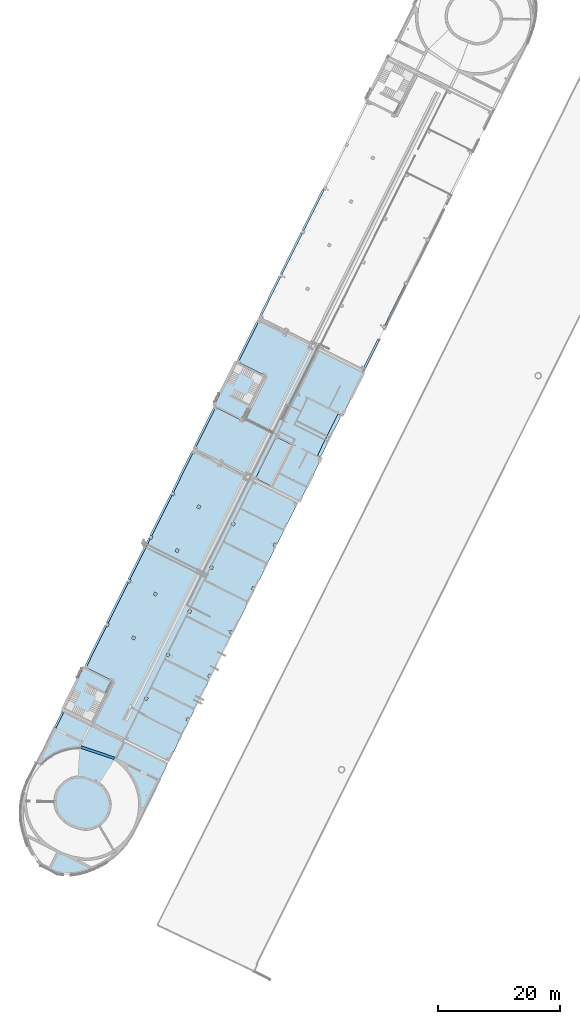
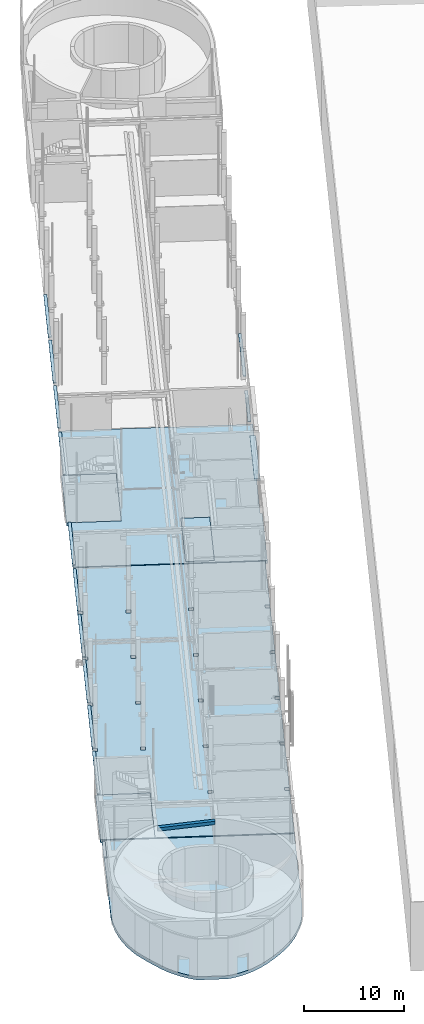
# One storey, part 2 of 91: 21 slabs, 11 openings.
"""IFC2X3 building model written with IfcOpenShell, lengths in metres."""

from ifc_helpers import new_model, entity, si_unit, converted_unit, derived_unit, direction, frame, frame_2d, origin, origin_2d_with_axis, place, context, subcontext, project, spatial, polyline, circle_curve, parameter, trimmed, segment, composite_curve, rectangle, circle, outline, extrude, material, layer, layer_set, layer_usage, element, save


model = new_model("IFC2X3")

# Units and contexts
model_context = context("Model", 3, precision=1e-05, world=origin(), true_north=direction((0.894925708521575, 0.446215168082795)))
context_of_model = context(None, 3, precision=1e-05, world=origin(), true_north=direction((0.894925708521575, 0.446215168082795)))
body_context = subcontext(model_context, "Body", "Model", "MODEL_VIEW")
ifc_project = project(units=[si_unit("LENGTHUNIT", "METRE"), si_unit("AREAUNIT", "SQUARE_METRE"), si_unit("VOLUMEUNIT", "CUBIC_METRE"), converted_unit("PLANEANGLEUNIT", "DEGREE", entity("IfcRatioMeasure", 0.0174532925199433), si_unit("PLANEANGLEUNIT", "RADIAN"), dimensions=[0, 0, 0, 0, 0, 0, 0]), si_unit("MASSUNIT", "GRAM", prefix="KILO"), si_unit("TIMEUNIT", "SECOND"), si_unit("FREQUENCYUNIT", "HERTZ"), si_unit("THERMODYNAMICTEMPERATUREUNIT", "DEGREE_CELSIUS"), derived_unit("THERMALTRANSMITTANCEUNIT", [(si_unit("MASSUNIT", "GRAM", prefix="KILO"), 1), (si_unit("THERMODYNAMICTEMPERATUREUNIT", "KELVIN"), -1), (si_unit("TIMEUNIT", "SECOND"), -3)]), derived_unit("VOLUMETRICFLOWRATEUNIT", [(si_unit("LENGTHUNIT", "METRE"), 3), (si_unit("TIMEUNIT", "SECOND"), -1)]), si_unit("ELECTRICCURRENTUNIT", "AMPERE"), si_unit("ELECTRICVOLTAGEUNIT", "VOLT"), si_unit("POWERUNIT", "WATT"), si_unit("FORCEUNIT", "NEWTON", prefix="KILO"), si_unit("ILLUMINANCEUNIT", "LUX"), si_unit("LUMINOUSFLUXUNIT", "LUMEN"), si_unit("LUMINOUSINTENSITYUNIT", "CANDELA"), si_unit("PRESSUREUNIT", "PASCAL")], contexts=[model_context, context_of_model])

# Site, building, storey
site_placement = place(None, frame((218.228324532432, 584.720189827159, 0.0), z_axis=(0.0, 0.0, 1.0), x_axis=(0.446215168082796, 0.894925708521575, 0.0)))
site = spatial("IfcSite", under=ifc_project, at=site_placement, Name="Default", CompositionType="ELEMENT")
building_placement = place(site_placement, origin())
building = spatial("IfcBuilding", under=site, at=building_placement, CompositionType="ELEMENT")
storey_placement = place(building_placement, origin())
storey = spatial("IfcBuildingStorey", under=building, at=storey_placement, Name="0 - Piano Terra", CompositionType="ELEMENT", Elevation=0.0)

# Slabs
ifc_material_1 = material(Name="Asfalto, bitume")
ifc_layer_1 = layer(ifc_material_1, 0.01)
ifc_material_2 = material(Name="Sabbia e Calcestruzzo")
ifc_layer_2 = layer(ifc_material_2, 0.09)
ifc_material_3 = material(Name="Calcestruzzo")
ifc_layer_3 = layer(ifc_material_3, 0.3)
ifc_layer_set_1 = layer_set([ifc_layer_1, ifc_layer_2, ifc_layer_3], Name="Pavimento:Scala PT 40 cm")
ifc_layer_usage_1 = layer_usage(ifc_layer_set_1, "AXIS3", "POSITIVE", 0.0)
slab_1_placement = place(storey_placement, origin())
element("IfcSlab", 1, at=slab_1_placement, inside=storey, material=ifc_layer_usage_1, Name="Pavimento:Scala PT 40 cm", ObjectType="Pavimento:Scala PT 40 cm", PredefinedType="FLOOR", context=body_context, shape_type="SweptSolid", body=[
    extrude(rectangle(XDim=5.5, YDim=7.82999999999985, at=origin_2d_with_axis()), frame((-56.6144493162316, 3.54892100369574, 0.0), z_axis=(0.0, 0.0, -1.0), x_axis=(0.0, 1.0, 0.0)), (0.0, 0.0, 1.0), 0.4),
])
ifc_material_4 = material(Name="Default - Calcestruzzo")
ifc_layer_4 = layer(ifc_material_4, 0.1)
ifc_layer_5 = layer(ifc_material_3, 0.3)
ifc_layer_set_2 = layer_set([ifc_layer_4, ifc_layer_5], Name="Pavimento:In opera Cementizio - 40 cm")
ifc_layer_usage_2 = layer_usage(ifc_layer_set_2, "AXIS3", "POSITIVE", 0.0)
slab_2_placement = place(storey_placement, origin())
element("IfcSlab", 2, at=slab_2_placement, inside=storey, material=ifc_layer_usage_2, Name="Pavimento:In opera Cementizio - 40 cm", ObjectType="Pavimento:In opera Cementizio - 40 cm", PredefinedType="FLOOR", context=body_context, shape_type="SweptSolid", body=[
    extrude(outline(composite_curve([segment(polyline([(-0.535485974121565, -8.78449900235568), (2.49451402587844, -8.78449900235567)]), True, "CONTINUOUS"), segment(trimmed(circle_curve(frame_2d((-0.464409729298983, 0.067342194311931), x_axis=(0.317028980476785, -0.948415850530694)), 9.33329107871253), [parameter(0.0)], [parameter(23.5918422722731)], True, "PARAMETER"), True, "CONTINUOUS"), segment(trimmed(circle_curve(frame_2d((-14.7657782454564, 14.4697394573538), x_axis=(0.693912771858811, -0.720059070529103)), 29.6228237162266), [parameter(0.0)], [parameter(7.35741811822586)], True, "PARAMETER"), True, "CONTINUOUS"), segment(trimmed(circle_curve(frame_2d((-1.91508056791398, 2.98044664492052), x_axis=(0.825007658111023, -0.565121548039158)), 12.4450089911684), [parameter(0.0)], [parameter(36.331238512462)], True, "PARAMETER"), True, "CONTINUOUS"), segment(polyline([(10.5229378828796, 3.39751475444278), (10.5860652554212, 15.6060314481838)]), True, "CONTINUOUS"), segment(polyline([(10.5860652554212, 15.6060314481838), (-8.73549150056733, 15.6060314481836)]), True, "CONTINUOUS"), segment(polyline([(-8.73549150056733, 15.6060314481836), (-8.73549150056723, 3.39316079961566)]), True, "CONTINUOUS"), segment(trimmed(circle_curve(frame_2d((10.660603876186, 3.43770599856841), x_axis=(-0.999997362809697, -0.00229660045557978)), 19.3961465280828), [parameter(0.0)], [parameter(8.03444573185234)], True, "PARAMETER"), True, "CONTINUOUS"), segment(trimmed(circle_curve(frame_2d((3.94776552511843, 3.06730337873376), x_axis=(-0.982247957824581, -0.187587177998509)), 12.7123127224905), [parameter(0.0)], [parameter(19.866382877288)], True, "PARAMETER"), True, "CONTINUOUS"), segment(trimmed(circle_curve(frame_2d((7.41939270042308, 5.6149900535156), x_axis=(-0.847184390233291, -0.531298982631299)), 17.0031286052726), [parameter(0.0)], [parameter(14.7309863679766)], True, "PARAMETER"), True, "CONTINUOUS"), segment(trimmed(circle_curve(frame_2d((1.34788365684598, -0.934862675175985), x_axis=(-0.689098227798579, -0.724667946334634)), 8.07241423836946), [parameter(0.0)], [parameter(30.066783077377)], True, "PARAMETER"), True, "CONTINUOUS")], self_intersect=False)), frame((-76.2654807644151, -4.46559302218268, 0.0), z_axis=(0.0, 0.0, -1.0), x_axis=(0.0, 1.0, 0.0)), (0.0, 0.0, 1.0), 0.4),
])

# Slab, openings
ifc_layer_usage_3 = layer_usage(ifc_layer_set_2, "AXIS3", "POSITIVE", 0.0)
slab_3_placement = place(storey_placement, frame((-60.5294493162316, -13.2010789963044, -0.4)))
slab_3 = element("IfcSlab", 3, at=slab_3_placement, inside=storey, material=ifc_layer_usage_3, Name="Pavimento:In opera Cementizio - 40 cm", ObjectType="Pavimento:In opera Cementizio - 40 cm", PredefinedType="FLOOR", context=body_context, shape_type="SweptSolid", body=[
    extrude(outline(polyline([(15.9925388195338, 9.66000000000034), (8.40375541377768, 9.66000000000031), (8.40375541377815, 9.16000000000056), (7.88375541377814, 9.16000000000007), (7.88375541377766, 9.66000000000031), (0.400941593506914, 9.66000000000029), (0.40094159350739, 9.16000000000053), (-0.119058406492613, 9.16000000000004), (-0.119058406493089, 9.66000000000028), (-7.6046900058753, 9.66000000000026), (-7.60469000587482, 9.16000000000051), (-8.12469000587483, 9.16000000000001), (-8.1246900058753, 9.66000000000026), (-15.6082892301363, 9.66000000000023), (-15.6082892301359, 9.16000000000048), (-16.1282892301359, 9.15999999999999), (-16.1282892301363, 9.66000000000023), (-23.8225388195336, 9.66000000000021), (-23.8225388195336, -9.66000000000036), (-16.1282892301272, -9.66000000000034), (-16.1282892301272, -9.16000000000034), (-15.6082892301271, -9.16000000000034), (-15.6082892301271, -9.66000000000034), (-8.12469000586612, -9.66000000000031), (-8.12469000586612, -9.16000000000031), (-7.60469000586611, -9.16000000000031), (-7.60469000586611, -9.66000000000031), (-0.119058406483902, -9.66000000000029), (-0.119058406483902, -9.16000000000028), (0.400941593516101, -9.16000000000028), (0.400941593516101, -9.66000000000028), (7.88375541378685, -9.66000000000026), (7.88375541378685, -9.16000000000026), (8.40375541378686, -9.16000000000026), (8.40375541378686, -9.66000000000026), (15.8768509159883, -9.66000000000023), (15.8768509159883, -9.16000000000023), (16.3968509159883, -9.16000000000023), (16.3968509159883, -9.66000000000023), (23.8225388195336, -9.66000000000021), (23.8225388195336, 4.3399999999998), (15.9925388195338, 4.3399999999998), (15.9925388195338, 9.66000000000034)])), frame((23.8225388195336, 9.66000000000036, 0.4), z_axis=(0.0, 0.0, -1.0), x_axis=(-1.0, 0.0, 0.0)), (0.0, 0.0, 1.0), 0.4),
])
opening_1_placement = place(slab_3_placement, frame((23.6815972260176, 14.2500000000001, 0.4)))
element("IfcOpeningElement", 4, at=opening_1_placement, cuts=slab_3, Name="Pavimento:In opera Cementizio - 40 cm:2", ObjectType="Opening", context=body_context, shape_type="SweptSolid", body=[
    extrude(rectangle(XDim=0.5, YDim=0.499999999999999, at=origin_2d_with_axis()), frame((0.0, 0.0, 0.0), z_axis=(0.0, 0.0, -1.0), x_axis=(0.0, -1.0, 0.0)), (0.0, 0.0, 1.0), 0.4),
])
opening_2_placement = place(slab_3_placement, frame((15.6787834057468, 14.2500000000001, 0.4)))
element("IfcOpeningElement", 5, at=opening_2_placement, cuts=slab_3, Name="Pavimento:In opera Cementizio - 40 cm:3", ObjectType="Opening", context=body_context, shape_type="SweptSolid", body=[
    extrude(rectangle(XDim=0.5, YDim=0.500000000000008, at=origin_2d_with_axis()), frame((0.0, 0.0, 0.0), z_axis=(0.0, 0.0, -1.0), x_axis=(0.0, 1.0, 0.0)), (0.0, 0.0, 1.0), 0.4),
])
opening_3_placement = place(slab_3_placement, frame((39.6908280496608, 7.94999999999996, 0.4)))
element("IfcOpeningElement", 6, at=opening_3_placement, cuts=slab_3, Name="Pavimento:In opera Cementizio - 40 cm:4", ObjectType="Opening", context=body_context, shape_type="SweptSolid", body=[
    extrude(rectangle(XDim=0.499999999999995, YDim=0.499999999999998, at=origin_2d_with_axis()), frame((0.0, 0.0, 0.0), z_axis=(0.0, 0.0, -1.0), x_axis=(-1.0, 0.0, 0.0)), (0.0, 0.0, 1.0), 0.4),
])
opening_4_placement = place(slab_3_placement, frame((31.6872288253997, 7.94999999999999, 0.4)))
element("IfcOpeningElement", 7, at=opening_4_placement, cuts=slab_3, Name="Pavimento:In opera Cementizio - 40 cm:5", ObjectType="Opening", context=body_context, shape_type="SweptSolid", body=[
    extrude(rectangle(XDim=0.499999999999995, YDim=0.499999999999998, at=origin_2d_with_axis()), frame((0.0, 0.0, 0.0), z_axis=(0.0, 0.0, -1.0), x_axis=(-1.0, 0.0, 0.0)), (0.0, 0.0, 1.0), 0.4),
])
opening_5_placement = place(slab_3_placement, frame((23.6815972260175, 7.95000000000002, 0.4)))
element("IfcOpeningElement", 8, at=opening_5_placement, cuts=slab_3, Name="Pavimento:In opera Cementizio - 40 cm:6", ObjectType="Opening", context=body_context, shape_type="SweptSolid", body=[
    extrude(rectangle(XDim=0.499999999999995, YDim=0.499999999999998, at=origin_2d_with_axis()), frame((0.0, 0.0, 0.0), z_axis=(0.0, 0.0, -1.0), x_axis=(-1.0, 0.0, 0.0)), (0.0, 0.0, 1.0), 0.4),
])
opening_6_placement = place(slab_3_placement, frame((15.6787834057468, 7.95000000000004, 0.4)))
element("IfcOpeningElement", 9, at=opening_6_placement, cuts=slab_3, Name="Pavimento:In opera Cementizio - 40 cm:7", ObjectType="Opening", context=body_context, shape_type="SweptSolid", body=[
    extrude(rectangle(XDim=0.500000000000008, YDim=0.499999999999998, at=origin_2d_with_axis()), frame((0.0, 0.0, 0.0), z_axis=(0.0, 0.0, -1.0), x_axis=(-1.0, 0.0, 0.0)), (0.0, 0.0, 1.0), 0.4),
])
opening_7_placement = place(slab_3_placement, frame((7.68568790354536, 7.95000000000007, 0.4)))
element("IfcOpeningElement", 10, at=opening_7_placement, cuts=slab_3, Name="Pavimento:In opera Cementizio - 40 cm:8", ObjectType="Opening", context=body_context, shape_type="SweptSolid", body=[
    extrude(rectangle(XDim=0.500000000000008, YDim=0.499999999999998, at=origin_2d_with_axis()), frame((0.0, 0.0, 0.0), z_axis=(0.0, 0.0, -1.0), x_axis=(-1.0, 0.0, 0.0)), (0.0, 0.0, 1.0), 0.4),
])
opening_8_placement = place(slab_3_placement, frame((31.6872288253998, 14.2500000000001, 0.4)))
element("IfcOpeningElement", 11, at=opening_8_placement, cuts=slab_3, Name="Pavimento:In opera Cementizio - 40 cm:9", ObjectType="Opening", context=body_context, shape_type="SweptSolid", body=[
    extrude(rectangle(XDim=0.5, YDim=0.499999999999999, at=origin_2d_with_axis()), frame((0.0, 0.0, 0.0), z_axis=(0.0, 0.0, -1.0), x_axis=(0.0, -1.0, 0.0)), (0.0, 0.0, 1.0), 0.4),
])
opening_9_placement = place(slab_3_placement, frame((39.6908280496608, 14.25, 0.4)))
element("IfcOpeningElement", 12, at=opening_9_placement, cuts=slab_3, Name="Pavimento:In opera Cementizio - 40 cm:10", ObjectType="Opening", context=body_context, shape_type="SweptSolid", body=[
    extrude(rectangle(XDim=0.5, YDim=0.499999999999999, at=origin_2d_with_axis()), frame((0.0, 0.0, 0.0), z_axis=(0.0, 0.0, -1.0), x_axis=(0.0, -1.0, 0.0)), (0.0, 0.0, 1.0), 0.4),
])
opening_10_placement = place(slab_3_placement, frame((23.681189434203, 0.820000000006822, 0.4)))
element("IfcOpeningElement", 13, at=opening_10_placement, cuts=slab_3, Name="Pavimento:In opera Cementizio - 40 cm:11", ObjectType="Opening", context=body_context, shape_type="SweptSolid", body=[
    extrude(circle(Radius=0.05, at=origin_2d_with_axis()), frame((0.0, 0.0, 0.0), z_axis=(0.0, 0.0, -1.0), x_axis=(1.0, 0.0, 0.0)), (0.0, 0.0, 1.0), 0.4),
])

# Slab, opening
ifc_layer_usage_4 = layer_usage(ifc_layer_set_2, "AXIS3", "POSITIVE", 0.0)
slab_4_placement = place(storey_placement, origin())
slab_4 = element("IfcSlab", 14, at=slab_4_placement, inside=storey, material=ifc_layer_usage_4, Name="Pavimento:In opera Cementizio - 40 cm", ObjectType="Pavimento:In opera Cementizio - 40 cm", PredefinedType="FLOOR", context=body_context, shape_type="SweptSolid", body=[
    extrude(outline(polyline([(3.73929332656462, -9.76500000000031), (11.9392933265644, -9.76500000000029), (11.9392933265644, 9.76500000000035), (4.14070667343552, 9.76500000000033), (4.14070667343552, 4.44499999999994), (-4.15929332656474, 4.44499999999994), (-4.15929332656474, 9.7650000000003), (-11.9392933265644, 9.76500000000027), (-11.9392933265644, -9.76500000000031), (-3.85929332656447, -9.76500000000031), (-3.85929332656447, -9.55500000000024), (3.73929332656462, -9.55500000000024), (3.73929332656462, -9.76500000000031)])), frame((-0.845078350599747, -3.64607899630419, 0.0), z_axis=(0.0, 0.0, -1.0), x_axis=(-1.0, 0.0, 0.0)), (0.0, 0.0, 1.0), 0.4),
])
opening_11_placement = place(slab_4_placement, frame((-8.68437167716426, -6.65107899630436, 0.0)))
element("IfcOpeningElement", 15, at=opening_11_placement, cuts=slab_4, Name="Pavimento:In opera Cementizio - 40 cm:2", ObjectType="Opening", context=body_context, shape_type="SweptSolid", body=[
    extrude(rectangle(XDim=7.59999999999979, YDim=2.89999999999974, at=origin_2d_with_axis()), frame((0.0, 0.0, 0.0), z_axis=(0.0, 0.0, 1.0), x_axis=(-1.0, 0.0, 0.0)), (0.0, 0.0, -1.0), 0.4),
])

# Slabs
ifc_layer_usage_5 = layer_usage(ifc_layer_set_2, "AXIS3", "POSITIVE", 0.0)
slab_5_placement = place(storey_placement, origin())
element("IfcSlab", 16, at=slab_5_placement, inside=storey, material=ifc_layer_usage_5, Name="Pavimento:In opera Cementizio - 40 cm", ObjectType="Pavimento:In opera Cementizio - 40 cm", PredefinedType="FLOOR", context=body_context, shape_type="SweptSolid", body=[
    extrude(rectangle(XDim=2.89999999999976, YDim=7.59999999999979, at=frame_2d((-5.99520433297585e-15, -4.44089209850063e-16), x_axis=(1.0, 0.0))), frame((-8.68437167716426, -6.65107899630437, 0.0), z_axis=(0.0, 0.0, -1.0), x_axis=(0.0, 1.0, 0.0)), (0.0, 0.0, 1.0), 0.4),
])
ifc_layer_usage_6 = layer_usage(ifc_layer_set_1, "AXIS3", "POSITIVE", 0.0)
slab_6_placement = place(storey_placement, origin())
element("IfcSlab", 17, at=slab_6_placement, inside=storey, material=ifc_layer_usage_6, Name="Pavimento:Scala PT 40 cm", ObjectType="Pavimento:Scala PT 40 cm", PredefinedType="FLOOR", context=body_context, shape_type="SweptSolid", body=[
    extrude(rectangle(XDim=5.5, YDim=8.30000000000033, at=origin_2d_with_axis()), frame((-0.835785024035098, 3.54892100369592, 0.0), z_axis=(0.0, 0.0, -1.0), x_axis=(0.0, 1.0, 0.0)), (0.0, 0.0, 1.0), 0.4),
])
ifc_layer_6 = layer(ifc_material_3, 0.4)
ifc_layer_set_3 = layer_set([ifc_layer_6], Name="Pavimento:Travi in opera - 40 cm")
ifc_layer_usage_7 = layer_usage(ifc_layer_set_3, "AXIS3", "POSITIVE", 0.0)
slab_7_placement = place(storey_placement, origin())
element("IfcSlab", 18, at=slab_7_placement, inside=storey, material=ifc_layer_usage_7, Name="Pavimento:Travi in opera - 40 cm", ObjectType="Pavimento:Travi in opera - 40 cm", PredefinedType="FLOOR", context=body_context, shape_type="SweptSolid", body=[
    extrude(outline(polyline([(-0.612439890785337, -2.89999999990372), (-0.208453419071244, -2.89999999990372), (0.612439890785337, 2.89999999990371), (0.208453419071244, 2.89999999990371), (-0.612439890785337, -2.89999999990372)])), frame((-64.3418892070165, -2.10107899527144, 4.29), z_axis=(0.0, 0.0, -1.0), x_axis=(-1.0, 0.0, 0.0)), (0.0, 0.0, 1.0), 0.4),
])
ifc_layer_7 = layer(ifc_material_4, 0.26)
ifc_layer_set_4 = layer_set([ifc_layer_7], Name="Pavimento:TRavi prefabbricate - 26 cm")
ifc_layer_usage_8 = layer_usage(ifc_layer_set_4, "AXIS3", "POSITIVE", 0.0)
slab_8_placement = place(storey_placement, origin())
element("IfcSlab", 19, at=slab_8_placement, inside=storey, material=ifc_layer_usage_8, Name="Pavimento:TRavi prefabbricate - 26 cm", ObjectType="Pavimento:TRavi prefabbricate - 26 cm", PredefinedType="FLOOR", context=body_context, shape_type="SweptSolid", body=[
    extrude(rectangle(XDim=0.6, YDim=7.59858665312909, at=frame_2d((-1.08246744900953e-15, 0.0), x_axis=(1.0, 0.0))), frame((-0.785078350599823, -12.9010789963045, 4.29), z_axis=(0.0, 0.0, -1.0), x_axis=(0.0, 1.0, 0.0)), (0.0, 0.0, 1.0), 0.26),
])
ifc_material_5 = material(Name="Ceramica bianca")
ifc_layer_8 = layer(ifc_material_5, 0.03)
ifc_layer_9 = layer(ifc_material_2, 0.06)
ifc_layer_set_5 = layer_set([ifc_layer_8, ifc_layer_9], Name="Pavimento:Cordolo esterno - 9 cm")
ifc_layer_usage_9 = layer_usage(ifc_layer_set_5, "AXIS3", "POSITIVE", 0.0)
slab_9_placement = place(storey_placement, origin())
element("IfcSlab", 20, at=slab_9_placement, inside=storey, material=ifc_layer_usage_9, Name="Pavimento:Cordolo esterno - 9 cm", ObjectType="Pavimento:Cordolo esterno - 9 cm", PredefinedType="FLOOR", context=body_context, shape_type="SweptSolid", body=[
    extrude(rectangle(XDim=0.33, YDim=7.58878340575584, at=frame_2d((-5.41233724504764e-16, 7.34967642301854e-14), x_axis=(1.0, 0.0))), frame((-48.9050576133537, 6.00392100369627, 0.09), z_axis=(0.0, 0.0, -1.0), x_axis=(0.0, 1.0, 0.0)), (0.0, 0.0, 1.0), 0.09),
])
ifc_layer_usage_10 = layer_usage(ifc_layer_set_5, "AXIS3", "POSITIVE", 0.0)
slab_10_placement = place(storey_placement, origin())
element("IfcSlab", 21, at=slab_10_placement, inside=storey, material=ifc_layer_usage_10, Name="Pavimento:Cordolo esterno - 9 cm", ObjectType="Pavimento:Cordolo esterno - 9 cm", PredefinedType="FLOOR", context=body_context, shape_type="SweptSolid", body=[
    extrude(outline(polyline([(-0.218919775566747, -1.38513127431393), (0.0467572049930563, -1.38513127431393), (0.046811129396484, -1.37470256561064), (0.111080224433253, -1.37503488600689), (0.111080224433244, 1.37500187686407), (0.0610305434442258, 1.37526067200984), (0.0610802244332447, 1.38486872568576), (-0.218919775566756, 1.38486872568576), (-0.218919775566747, -1.38513127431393)])), frame((-62.3443180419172, 6.05784077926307, 0.09), z_axis=(0.0, 0.0, -1.0), x_axis=(0.0, 1.0, 0.0)), (0.0, 0.0, 1.0), 0.09),
])
ifc_layer_usage_11 = layer_usage(ifc_layer_set_5, "AXIS3", "POSITIVE", 0.0)
slab_11_placement = place(storey_placement, origin())
element("IfcSlab", 22, at=slab_11_placement, inside=storey, material=ifc_layer_usage_11, Name="Pavimento:Cordolo esterno - 9 cm", ObjectType="Pavimento:Cordolo esterno - 9 cm", PredefinedType="FLOOR", context=body_context, shape_type="SweptSolid", body=[
    extrude(rectangle(XDim=0.33, YDim=7.48281382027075, at=frame_2d((-5.41233724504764e-16, 8.01581023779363e-14), x_axis=(1.0, 0.0))), frame((-40.8492590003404, 6.00392100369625, 0.09), z_axis=(0.0, 0.0, -1.0), x_axis=(0.0, 1.0, 0.0)), (0.0, 0.0, 1.0), 0.09),
])
ifc_layer_usage_12 = layer_usage(ifc_layer_set_5, "AXIS3", "POSITIVE", 0.0)
slab_12_placement = place(storey_placement, origin())
element("IfcSlab", 23, at=slab_12_placement, inside=storey, material=ifc_layer_usage_12, Name="Pavimento:Cordolo esterno - 9 cm", ObjectType="Pavimento:Cordolo esterno - 9 cm", PredefinedType="FLOOR", context=body_context, shape_type="SweptSolid", body=[
    extrude(rectangle(XDim=0.33, YDim=7.48563159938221, at=frame_2d((-5.41233724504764e-16, -2.22044604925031e-15), x_axis=(1.0, 0.0))), frame((-32.8450362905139, 6.00392100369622, 0.09), z_axis=(0.0, 0.0, -1.0), x_axis=(0.0, 1.0, 0.0)), (0.0, 0.0, 1.0), 0.09),
])
ifc_layer_usage_13 = layer_usage(ifc_layer_set_5, "AXIS3", "POSITIVE", 0.0)
slab_13_placement = place(storey_placement, origin())
element("IfcSlab", 24, at=slab_13_placement, inside=storey, material=ifc_layer_usage_13, Name="Pavimento:Cordolo esterno - 9 cm", ObjectType="Pavimento:Cordolo esterno - 9 cm", PredefinedType="FLOOR", context=body_context, shape_type="SweptSolid", body=[
    extrude(rectangle(XDim=0.33, YDim=7.48359922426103, at=frame_2d((-5.41233724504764e-16, 7.57172102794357e-14), x_axis=(1.0, 0.0))), frame((-24.8404208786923, 6.00392100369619, 0.09), z_axis=(0.0, 0.0, -1.0), x_axis=(0.0, 1.0, 0.0)), (0.0, 0.0, 1.0), 0.09),
])
ifc_layer_usage_14 = layer_usage(ifc_layer_set_5, "AXIS3", "POSITIVE", 0.0)
slab_14_placement = place(storey_placement, origin())
element("IfcSlab", 25, at=slab_14_placement, inside=storey, material=ifc_layer_usage_14, Name="Pavimento:Cordolo esterno - 9 cm", ObjectType="Pavimento:Cordolo esterno - 9 cm", PredefinedType="FLOOR", context=body_context, shape_type="SweptSolid", body=[
    extrude(rectangle(XDim=0.33, YDim=7.39424958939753, at=frame_2d((-5.41233724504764e-16, -7.7937656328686e-14), x_axis=(1.0, 0.0))), frame((-16.881496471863, 6.00392100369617, 0.09), z_axis=(0.0, 0.0, -1.0), x_axis=(0.0, 1.0, 0.0)), (0.0, 0.0, 1.0), 0.09),
])
ifc_layer_usage_15 = layer_usage(ifc_layer_set_5, "AXIS3", "POSITIVE", 0.0)
slab_15_placement = place(storey_placement, origin())
element("IfcSlab", 26, at=slab_15_placement, inside=storey, material=ifc_layer_usage_15, Name="Pavimento:Cordolo esterno - 9 cm", ObjectType="Pavimento:Cordolo esterno - 9 cm", PredefinedType="FLOOR", context=body_context, shape_type="SweptSolid", body=[
    extrude(rectangle(XDim=0.33, YDim=7.49858665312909, at=frame_2d((-5.41233724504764e-16, 0.0), x_axis=(1.0, 0.0))), frame((-8.73507835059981, 6.00392100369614, 0.09), z_axis=(0.0, 0.0, -1.0), x_axis=(0.0, 1.0, 0.0)), (0.0, 0.0, 1.0), 0.09),
])
ifc_layer_usage_16 = layer_usage(ifc_layer_set_5, "AXIS3", "POSITIVE", 0.0)
slab_16_placement = place(storey_placement, origin())
element("IfcSlab", 27, at=slab_16_placement, inside=storey, material=ifc_layer_usage_16, Name="Pavimento:Cordolo esterno - 9 cm", ObjectType="Pavimento:Cordolo esterno - 9 cm", PredefinedType="FLOOR", context=body_context, shape_type="SweptSolid", body=[
    extrude(rectangle(XDim=0.33, YDim=7.48000000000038, at=frame_2d((-5.41233724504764e-16, 0.0), x_axis=(1.0, 0.0))), frame((7.05421497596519, 6.00392100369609, 0.09), z_axis=(0.0, 0.0, -1.0), x_axis=(0.0, 1.0, 0.0)), (0.0, 0.0, 1.0), 0.09),
])
ifc_layer_usage_17 = layer_usage(ifc_layer_set_5, "AXIS3", "POSITIVE", 0.0)
slab_17_placement = place(storey_placement, origin())
element("IfcSlab", 28, at=slab_17_placement, inside=storey, material=ifc_layer_usage_17, Name="Pavimento:Cordolo esterno - 9 cm", ObjectType="Pavimento:Cordolo esterno - 9 cm", PredefinedType="FLOOR", context=body_context, shape_type="SweptSolid", body=[
    extrude(rectangle(XDim=0.33, YDim=7.42161454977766, at=frame_2d((-5.41233724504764e-16, 7.7937656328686e-14), x_axis=(1.0, 0.0))), frame((15.2050222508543, 6.00392100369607, 0.09), z_axis=(0.0, 0.0, -1.0), x_axis=(0.0, 1.0, 0.0)), (0.0, 0.0, 1.0), 0.09),
])
ifc_layer_usage_18 = layer_usage(ifc_layer_set_5, "AXIS3", "POSITIVE", 0.0)
slab_18_placement = place(storey_placement, origin())
element("IfcSlab", 29, at=slab_18_placement, inside=storey, material=ifc_layer_usage_18, Name="Pavimento:Cordolo esterno - 9 cm", ObjectType="Pavimento:Cordolo esterno - 9 cm", PredefinedType="FLOOR", context=body_context, shape_type="SweptSolid", body=[
    extrude(rectangle(XDim=0.33, YDim=7.47321558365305, at=frame_2d((-5.41233724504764e-16, 8.01581023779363e-14), x_axis=(1.0, 0.0))), frame((23.1724373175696, 6.00392100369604, 0.09), z_axis=(0.0, 0.0, -1.0), x_axis=(0.0, 1.0, 0.0)), (0.0, 0.0, 1.0), 0.09),
])
ifc_layer_usage_19 = layer_usage(ifc_layer_set_5, "AXIS3", "POSITIVE", 0.0)
slab_19_placement = place(storey_placement, origin())
element("IfcSlab", 30, at=slab_19_placement, inside=storey, material=ifc_layer_usage_19, Name="Pavimento:Cordolo esterno - 9 cm", ObjectType="Pavimento:Cordolo esterno - 9 cm", PredefinedType="FLOOR", context=body_context, shape_type="SweptSolid", body=[
    extrude(rectangle(XDim=0.33, YDim=7.47745100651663, at=frame_2d((-5.41233724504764e-16, 8.01581023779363e-14), x_axis=(1.0, 0.0))), frame((31.1677706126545, 6.00392100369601, 0.09), z_axis=(0.0, 0.0, -1.0), x_axis=(0.0, 1.0, 0.0)), (0.0, 0.0, 1.0), 0.09),
])
ifc_layer_usage_20 = layer_usage(ifc_layer_set_5, "AXIS3", "POSITIVE", 0.0)
slab_20_placement = place(storey_placement, origin())
element("IfcSlab", 31, at=slab_20_placement, inside=storey, material=ifc_layer_usage_20, Name="Pavimento:Cordolo esterno - 9 cm", ObjectType="Pavimento:Cordolo esterno - 9 cm", PredefinedType="FLOOR", context=body_context, shape_type="SweptSolid", body=[
    extrude(rectangle(XDim=0.329999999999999, YDim=5.39161454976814, at=frame_2d((1.08246744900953e-15, 4.21884749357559e-15), x_axis=(1.0, 0.0))), frame((14.19002225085, -13.0860789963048, 0.09), z_axis=(0.0, 0.0, -1.0), x_axis=(0.0, 1.0, 0.0)), (0.0, 0.0, 1.0), 0.09),
])
ifc_layer_usage_21 = layer_usage(ifc_layer_set_5, "AXIS3", "POSITIVE", 0.0)
slab_21_placement = place(storey_placement, origin())
element("IfcSlab", 32, at=slab_21_placement, inside=storey, material=ifc_layer_usage_21, Name="Pavimento:Cordolo esterno - 9 cm", ObjectType="Pavimento:Cordolo esterno - 9 cm", PredefinedType="FLOOR", context=body_context, shape_type="SweptSolid", body=[
    extrude(rectangle(XDim=0.329999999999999, YDim=7.47321558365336, at=frame_2d((1.09634523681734e-15, -7.7937656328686e-14), x_axis=(1.0, 0.0))), frame((23.1724373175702, -13.0860789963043, 0.09), z_axis=(0.0, 0.0, -1.0), x_axis=(0.0, 1.0, 0.0)), (0.0, 0.0, 1.0), 0.09),
])

save(model, "model.ifc")
